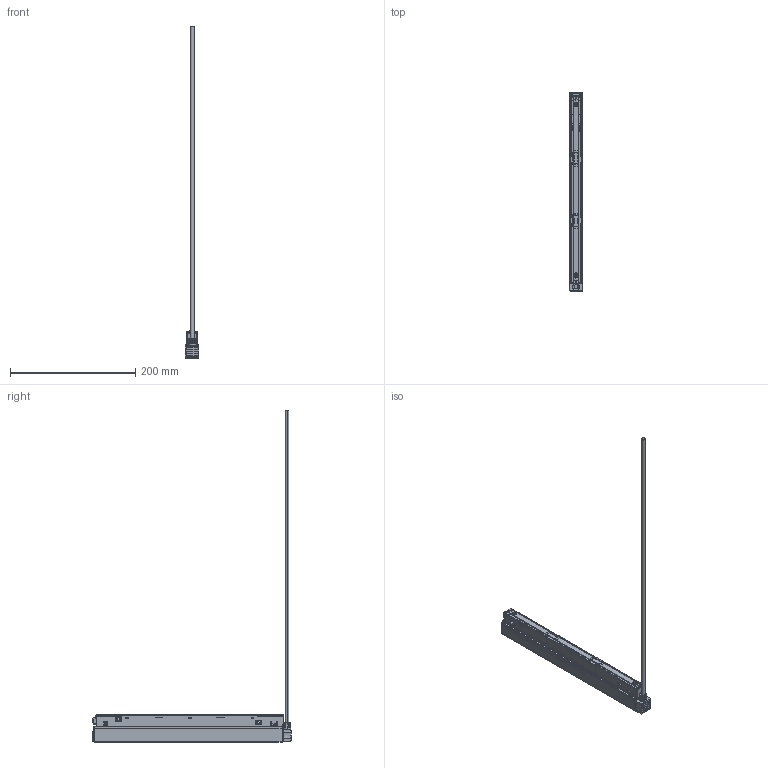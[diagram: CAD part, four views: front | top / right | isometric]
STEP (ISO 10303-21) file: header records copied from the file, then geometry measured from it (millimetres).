
FILE_DESCRIPTION((''),'2;1');
FILE_NAME('200W_ASM','2025-03-25T17:35:30',('Administrator'),(''),'CREO PARAMETRIC BY PTC INC, 2020053','CREO PARAMETRIC BY PTC INC, 2020053','');
FILE_SCHEMA(('CONFIG_CONTROL_DESIGN'));
Products named in the file (11): 300-1; 300-2; 300-3; TT-2; 300_ASM_17_ASM; LC1; LC2; MANIFOLD_SOLID_BREP_43; MANIFOLD_SOLID_BREP_44; XT; 200W_ASM
Assembly tree (11 placements, depth 3):
  200W_ASM
    300_ASM_17_ASM
      300-1
      300-2
      300-3
      TT-2  x2
    LC1
    LC2
    MANIFOLD_SOLID_BREP_43
    MANIFOLD_SOLID_BREP_44
    XT
Bounding box: 22.1 x 316.81 x 530.8 mm (x, y, z)
Volume: 102998.7 mm3; surface area: 140850 mm2
Topology: 12 solids, 12 shells, 1863 faces, 4997 edges, 3239 vertices
Faces by surface type: plane 1195, cylinder 300, bspline 184, cone 142, torus 30, sphere 12
Entity records: 59864 total; most frequent: CARTESIAN_POINT 17104, ORIENTED_EDGE 9352, DIRECTION 8022, EDGE_CURVE 4676, VECTOR 3328, LINE 3328, VERTEX_POINT 3065, AXIS2_PLACEMENT_3D 2347
